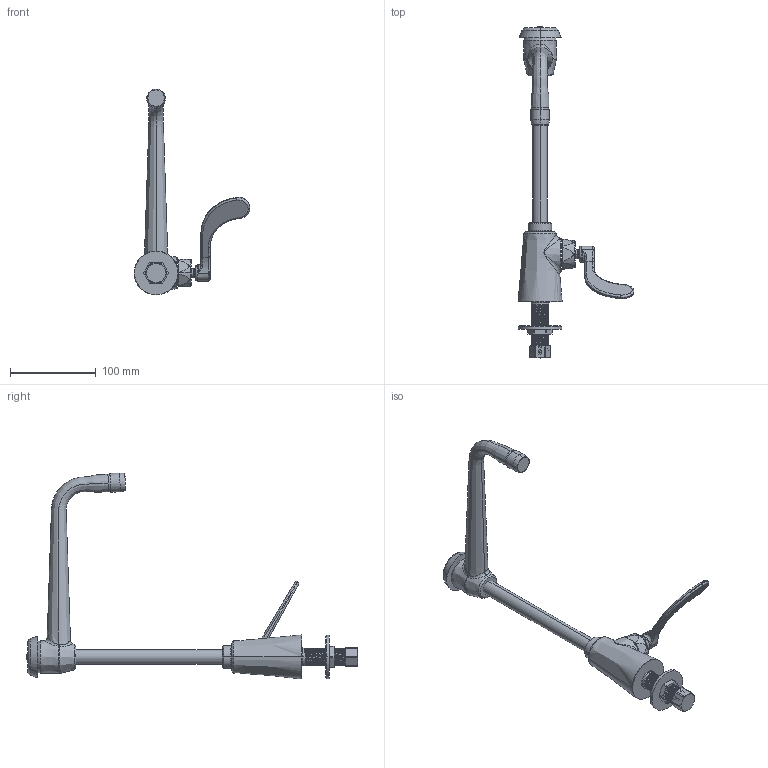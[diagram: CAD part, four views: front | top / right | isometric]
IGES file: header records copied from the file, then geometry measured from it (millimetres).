
Start section:  PTC IGES file: LWS1-C25-H.igs
Global section: file name: LWS1-C25-H.igs; native system: Creo Parametric by PTC Inc.; preprocessor: 2017260; author: usch_engrender; organization: Unknown; date: 20190828.092657; units: inch
Bounding box: 135.25 x 387.78 x 240.55 mm (x, y, z)
Surface area: 77270.6 mm2 (no closed solid volume)
Topology: 0 solids, 17 shells, 290 faces, 745 edges, 472 vertices
Faces by surface type: revolution 205, bspline 85
